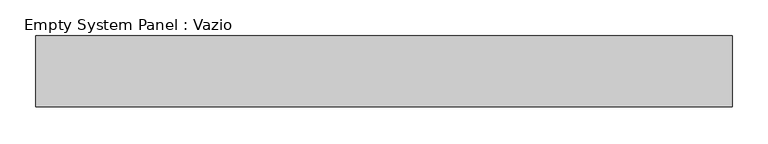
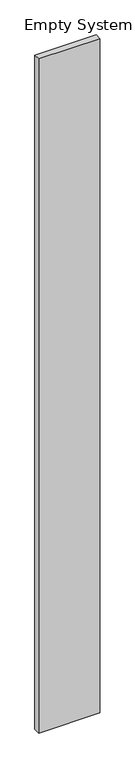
"""IFC4 building model written with IfcOpenShell, lengths in millimetres: plate geometry, Empty System Panel : Vazio."""

from ifc_helpers import new_model, si_unit, frame, origin, place, context, project, spatial, polyline, outline, extrude, source, transform, mapped, element, save


def empty_system_panel_vazio_7c1384e1(model_context):
    return source(origin(), model_context, "Body", "SweptSolid", [
        extrude(outline(polyline([(0.0, -489.4757813), (0.0, 490.0000002), (11384.3498653, 490.0000002), (11384.2884062, -490.0000002), (0.0, -489.4757813)])), frame((0.0, 50.0, 0.0), z_axis=(0.0, 1.0, 0.0), x_axis=(0.0, 0.0, 1.0)), (0.0, 0.0, 1.0), 100.0),
    ])


if __name__ == "__main__":
    model = new_model("IFC4")
    model_context = context("Model", 3, world=origin())
    ifc_project = project(units=[si_unit("LENGTHUNIT", "METRE", prefix="MILLI")], contexts=[model_context])
    site = spatial("IfcSite", under=ifc_project)
    building = spatial("IfcBuilding", under=site)
    placement = place(None, origin())
    empty_system_panel_vazio_shape = empty_system_panel_vazio_7c1384e1(model_context)
    element("IfcPlate", 1, ObjectType="Empty System Panel : Vazio", at=placement, inside=building, context=model_context, shape_type="MappedRepresentation", body=[
        mapped(empty_system_panel_vazio_shape, transform((0.0, 0.0, 0.0), x_axis=(1.0, 0.0, 0.0), y_axis=(0.0, 1.0, 0.0), z_axis=(0.0, 0.0, 1.0))),
    ])
    save(model, "model.ifc")
